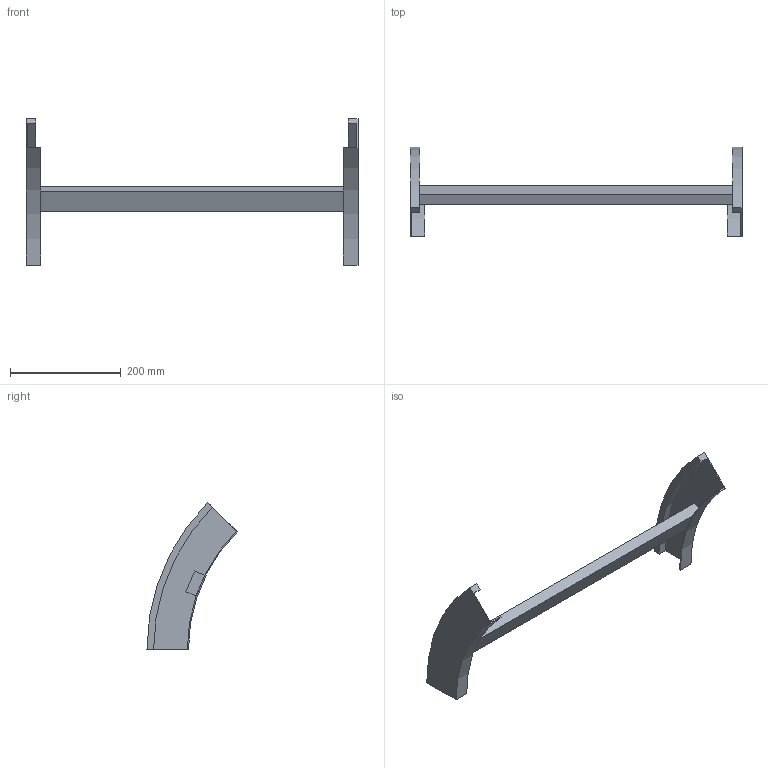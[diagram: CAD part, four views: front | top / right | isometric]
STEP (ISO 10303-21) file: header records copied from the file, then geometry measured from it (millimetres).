
FILE_DESCRIPTION (( 'STEP AP214' ), '1' );
FILE_NAME ('B2_34B3C600.step', '2025-02-21T14:55:38', ( '' ), ( '' ), 'SwSTEP 2.0', 'SolidWorks 2023', '' );
FILE_SCHEMA (( 'AUTOMOTIVE_DESIGN' ));
Length unit declared in the file: millimetre
Products named in the file (3): TRAVERSINO_600; B2_34B3C600; B2_LONGH.DISCESA_45°_H75_R300
Assembly tree (3 placements, depth 2):
  B2_34B3C600
    B2_LONGH.DISCESA_45°_H75_R300  x2
    TRAVERSINO_600
Bounding box: 600 x 162.87 x 265.17 mm (x, y, z)
Volume: 697209.8 mm3; surface area: 199134.6 mm2
Topology: 3 solids, 3 shells, 26 faces, 60 edges, 40 vertices
Faces by surface type: plane 18, cylinder 8
Entity records: 544 total; most frequent: DIRECTION 88, CARTESIAN_POINT 82, ORIENTED_EDGE 72, EDGE_CURVE 36, AXIS2_PLACEMENT_3D 30, VECTOR 28, LINE 28, VERTEX_POINT 24
